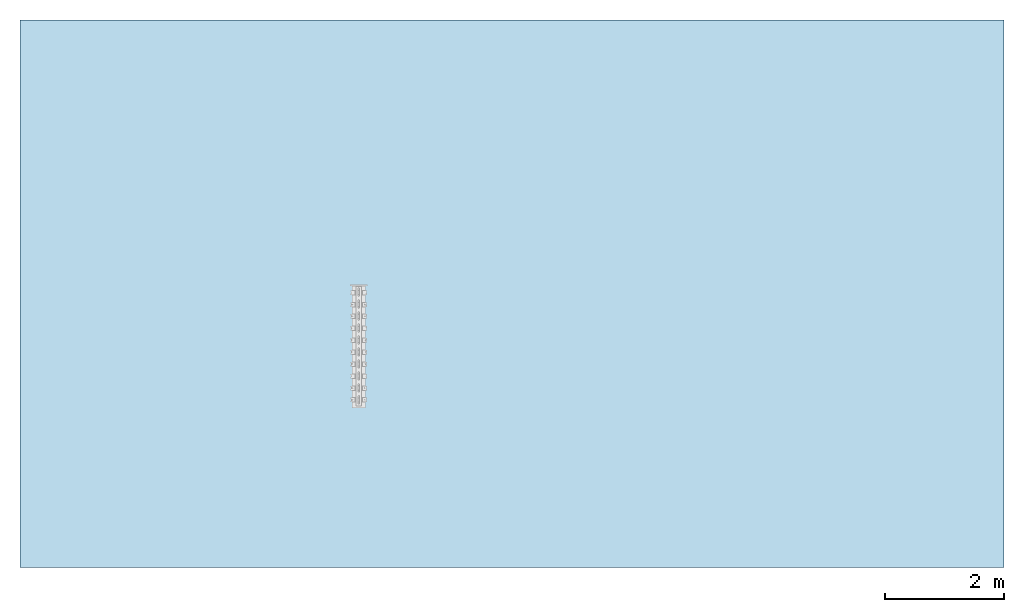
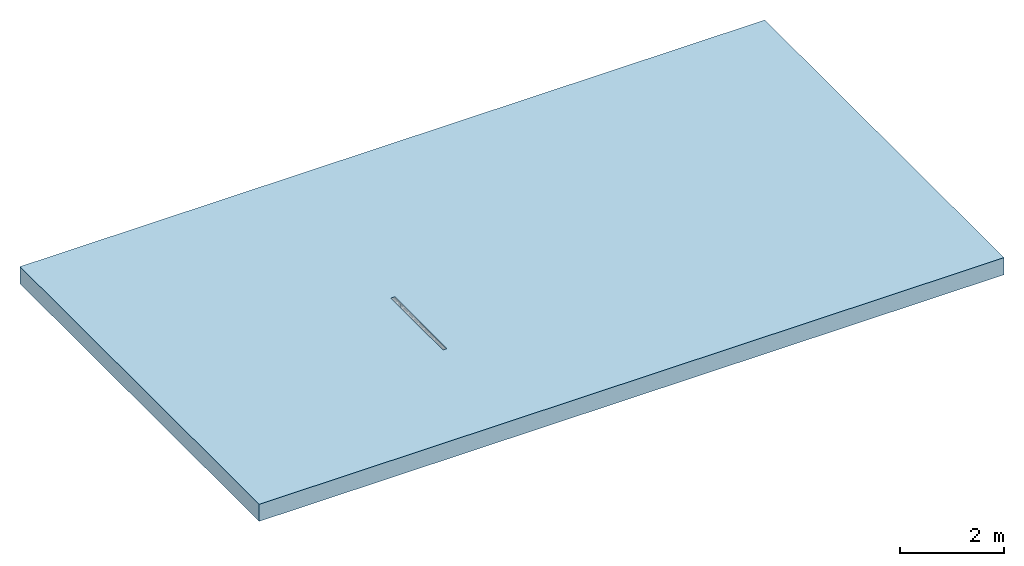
# One storey, incomplete: 1 slab, 1 opening.
"""IFC2X3 building model written with IfcOpenShell, lengths in millimetres."""

from ifc_helpers import new_model, entity, si_unit, converted_unit, direction, frame, frame_2d, origin, place, context, subcontext, project, spatial, polyline, rectangle, outline, extrude, material, layer, layer_set, layer_usage, element, save


model = new_model("IFC2X3")

# Units and contexts
model_context = context("Model", 3, precision=1e-06, world=origin(), true_north=direction((2.0, 6.12303176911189e-17, 1.0)))
context_of_model = context(None, 3, precision=1e-06, world=origin(), true_north=direction((2.0, 6.12303176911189e-17, 1.0)))
body_context = subcontext(model_context, "Body", "Model", "MODEL_VIEW")
ifc_project = project(units=[si_unit("LENGTHUNIT", "METRE", prefix="MILLI"), si_unit("AREAUNIT", "SQUARE_METRE", prefix="MILLI"), si_unit("VOLUMEUNIT", "CUBIC_METRE", prefix="MILLI"), converted_unit("PLANEANGLEUNIT", "DEGREE", entity("IfcRatioMeasure", 0.0174532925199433), si_unit("PLANEANGLEUNIT", "RADIAN"), dimensions=[0, 0, 0, 0, 0, 0, 0]), si_unit("TIMEUNIT", "SECOND")], contexts=[model_context, context_of_model])

# Site, building, storey
site_placement = place(None, origin())
site = spatial("IfcSite", under=ifc_project, at=site_placement, Name="Default", CompositionType="ELEMENT")
building_placement = place(site_placement, origin())
building = spatial("IfcBuilding", under=site, at=building_placement, CompositionType="ELEMENT")
storey_placement = place(building_placement, origin())
storey = spatial("IfcBuildingStorey", under=building, at=storey_placement, Name="Level 1", CompositionType="ELEMENT", Elevation=0.0)

# Slab, opening
ifc_material = material(Name="Plant")
ifc_layer = layer(ifc_material, 400.0)
ifc_layer_set = layer_set([ifc_layer], Name="Floor:Generic Floor - 400mm")
ifc_layer_usage = layer_usage(ifc_layer_set, "AXIS3", "POSITIVE", 0.0)
slab_placement = place(storey_placement, frame((-17967.0691536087, -3738.31688706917, -400.0)))
slab = element("IfcSlab", 1, at=slab_placement, inside=storey, material=ifc_layer_usage, Name="Floor:Generic Floor - 400mm", ObjectType="Floor:Generic Floor - 400mm", PredefinedType="FLOOR", context=body_context, shape_type="SweptSolid", body=[
    extrude(rectangle(XDim=9180.0, YDim=16500.0, at=frame_2d((0.0, 0.0), x_axis=(0.0, -1.0))), frame((8250.0, 4590.0, 400.0), z_axis=(0.0, 0.0, -1.0), x_axis=(-1.0, 0.0, 0.0)), (0.0, 0.0, 1.0), 400.0),
])
opening_placement = place(slab_placement, origin())
element("IfcOpeningElement", 2, at=opening_placement, cuts=slab, ObjectType="Opening", context=body_context, shape_type="SweptSolid", body=[
    extrude(outline(polyline([(-135.0, 45.0), (-135.0, -45.0), (-105.0, -45.0), (-105.0, -170.0), (345.0, -170.0), (345.0, 170.0), (-105.0, 170.0), (-105.0, 45.0), (-135.0, 45.0)])), frame((5680.64834349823, 2709.71652765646, 265.0), z_axis=(0.0, -1.0, 0.0), x_axis=(0.0, 0.0, -1.0)), (0.0, 0.0, -1.0), 2000.0),
])

save(model, "model.ifc")
